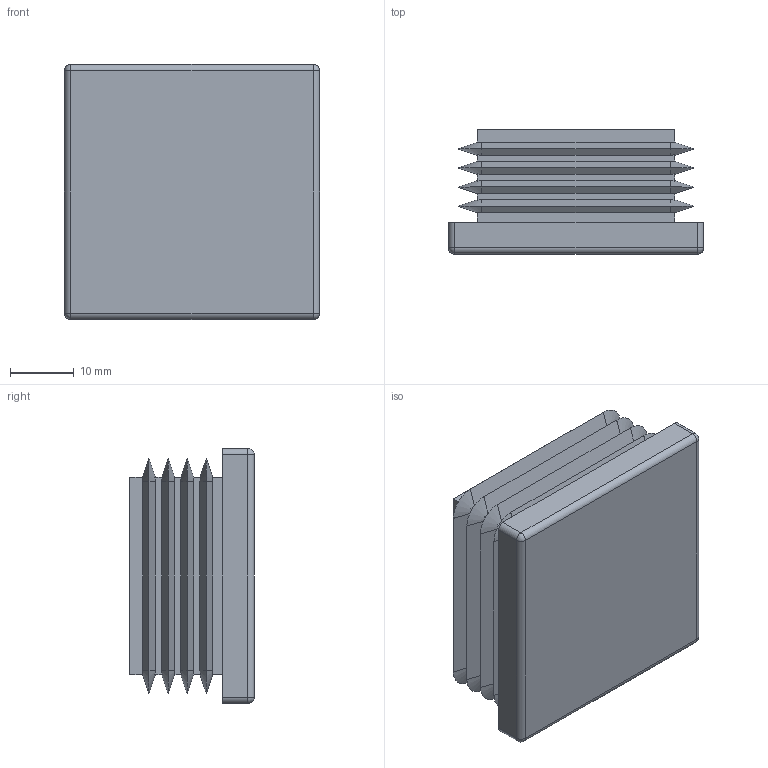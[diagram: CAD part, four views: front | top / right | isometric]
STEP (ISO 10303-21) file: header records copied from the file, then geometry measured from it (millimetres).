
FILE_DESCRIPTION(/* description */ ('END CAP FOR TUBE 500-1010'),/* implementation_level */ '2;1');
FILE_NAME(/* name */ '500-2010.stp',/* time_stamp */ '2022-09-16T10:16:13+02:00',/* author */ ('ML'),/* organization */ ('CARRYLINE'),/* preprocessor_version */ 'ST-DEVELOPER v19.2',/* originating_system */ 'Autodesk Inventor 2023',/* authorisation */ '');
FILE_SCHEMA (('AUTOMOTIVE_DESIGN { 1 0 10303 214 3 1 1 }'));
Length unit declared in the file: millimetre
Products named in the file (1): 500-2010
Bounding box: 40 x 19.5 x 40 mm (x, y, z)
Volume: 11663.1 mm3; surface area: 9720.9 mm2
Topology: 1 solids, 1 shells, 108 faces, 272 edges, 164 vertices
Faces by surface type: plane 64, cone 32, cylinder 8, sphere 4
Entity records: 3091 total; most frequent: CARTESIAN_POINT 669, ORIENTED_EDGE 536, DIRECTION 454, EDGE_CURVE 268, LINE 172, VECTOR 172, VERTEX_POINT 164, AXIS2_PLACEMENT_3D 141
